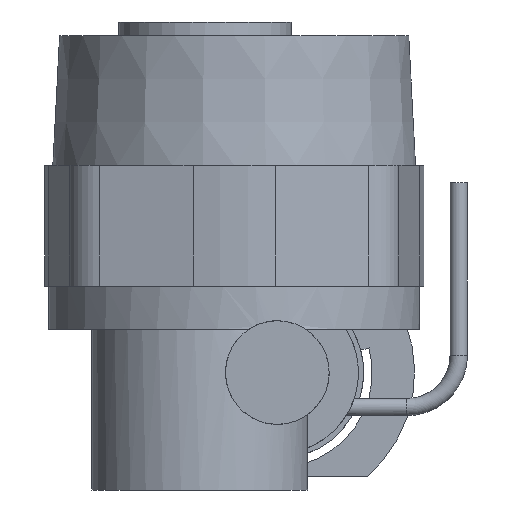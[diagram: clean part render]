
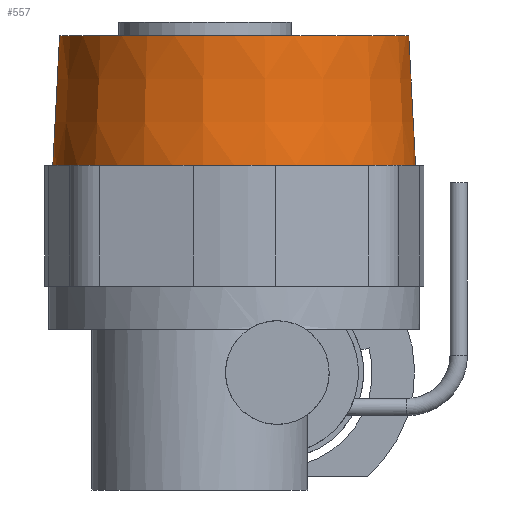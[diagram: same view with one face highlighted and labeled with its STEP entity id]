
A CAD part, front view. The second image highlights one B-rep face of the part: STEP entity #557.
In plain terms, the highlighted conical face has half-angle 3 degrees and reference radius 103.035 mm.
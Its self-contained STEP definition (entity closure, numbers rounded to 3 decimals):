
#557=ADVANCED_FACE('',(#1297,#1299),#1301,.T.);
#1297=FACE_OUTER_BOUND('',#1298,.T.);
#1298=EDGE_LOOP('',(#1777));
#1299=FACE_OUTER_BOUND('',#1300,.T.);
#1300=EDGE_LOOP('',(#1778));
#1301=CONICAL_SURFACE('',#1302,103.035,0.052);
#1302=AXIS2_PLACEMENT_3D('',#1303,#1304,#1305);
#1303=CARTESIAN_POINT('',(0.,0.,107.5));
#1304=DIRECTION('',(-0.,-0.,-1.));
#1305=DIRECTION('',(1.,0.,-0.));
#1777=ORIENTED_EDGE('',*,*,#2010,.F.);
#1778=ORIENTED_EDGE('',*,*,#2008,.T.);
#2008=EDGE_CURVE('',#2259,#2259,#2260,.T.);
#2010=EDGE_CURVE('',#2263,#2263,#2264,.T.);
#2259=VERTEX_POINT('',#3425);
#2260=CIRCLE('',#3426,105.);
#2263=VERTEX_POINT('',#3435);
#2264=CIRCLE('',#3436,101.069);
#3425=CARTESIAN_POINT('',(-105.,0.,70.));
#3426=AXIS2_PLACEMENT_3D('',#3427,#3428,#3429);
#3427=CARTESIAN_POINT('',(0.,0.,70.));
#3428=DIRECTION('',(0.,0.,1.));
#3429=DIRECTION('',(-1.,0.,0.));
#3435=CARTESIAN_POINT('',(-101.069,0.,145.));
#3436=AXIS2_PLACEMENT_3D('',#3437,#3438,#3439);
#3437=CARTESIAN_POINT('',(0.,0.,145.));
#3438=DIRECTION('',(0.,0.,1.));
#3439=DIRECTION('',(-1.,0.,0.));
